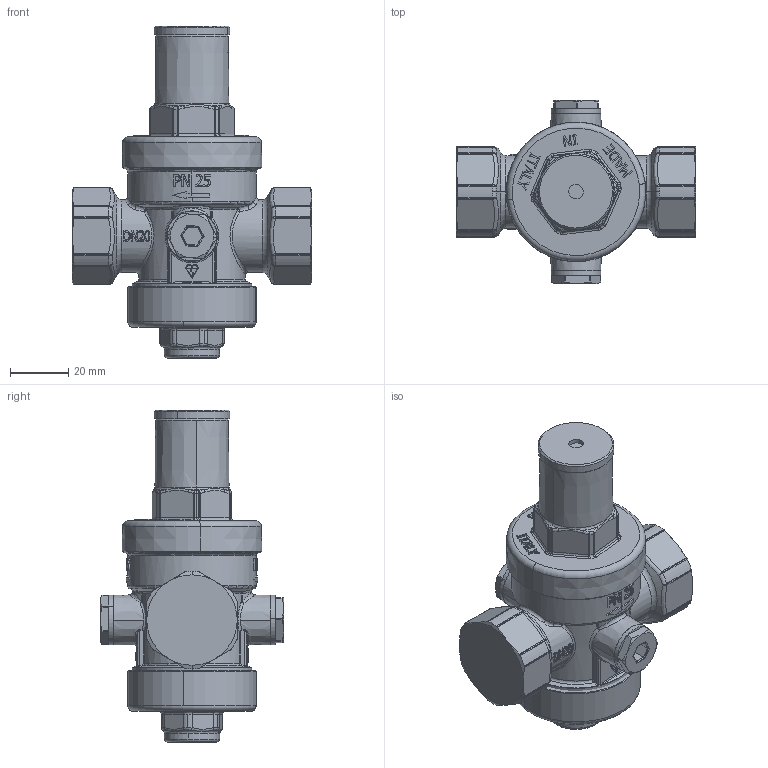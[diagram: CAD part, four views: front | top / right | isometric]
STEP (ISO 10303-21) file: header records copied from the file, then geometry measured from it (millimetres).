
FILE_DESCRIPTION (( 'STEP AP214' ), '1' );
FILE_NAME ('BPR402_standardowy_reduktor_cisnienia_9040210_0_3D_AFRISO.STEP', '2025-06-03T07:17:09', ( '' ), ( '' ), 'SwSTEP 2.0', 'SolidWorks 2024', '' );
FILE_SCHEMA (( 'AUTOMOTIVE_DESIGN' ));
Length unit declared in the file: millimetre
Products named in the file (6): 7001.235.15; BPR402_standardowy_reduktor_cisnienia_9040210_0_3D_AFRISO; 4401.008.00; 3301.515.00; 3001.520.02; 3101.515.00
Assembly tree (6 placements, depth 2):
  BPR402_standardowy_reduktor_cisnienia_9040210_0_3D_AFRISO
    3001.520.02
    3101.515.00
    3301.515.00
    4401.008.00  x2
    7001.235.15
Bounding box: 82 x 63 x 113.8 mm (x, y, z)
Volume: 178881 mm3; surface area: 34754.6 mm2
Topology: 6 solids, 6 shells, 1178 faces, 2951 edges, 1830 vertices
Faces by surface type: plane 448, cylinder 262, bspline 252, torus 92, cone 76, sphere 48
Entity records: 82987 total; most frequent: CARTESIAN_POINT 47352, ORIENTED_EDGE 5548, DIRECTION 4382, EDGE_CURVE 2774, VERTEX_POINT 1730, AXIS2_PLACEMENT_3D 1541, VECTOR 1300, LINE 1300
